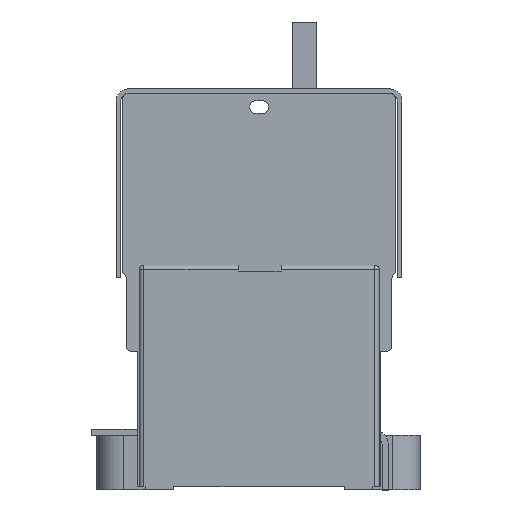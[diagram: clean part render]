
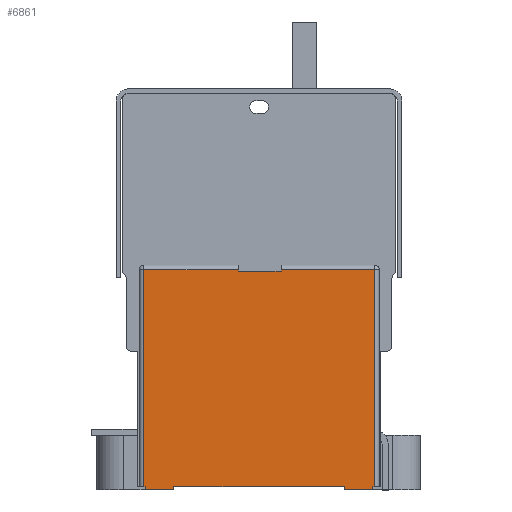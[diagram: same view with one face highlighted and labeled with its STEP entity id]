
A CAD part, left-side view. The second image highlights one B-rep face of the part: STEP entity #6861.
In plain terms, the highlighted planar face has unit normal (-1, 0, 0).
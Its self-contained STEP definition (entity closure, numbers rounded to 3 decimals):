
#714=PLANE('',#21398);
#1648=FACE_OUTER_BOUND('',#8660,.T.);
#3436=LINE('',#31904,#5532);
#3438=LINE('',#31910,#5534);
#3508=LINE('',#32222,#5604);
#3524=LINE('',#32302,#5620);
#3559=LINE('',#32401,#5655);
#3564=LINE('',#32413,#5660);
#3566=LINE('',#32416,#5662);
#3572=LINE('',#32429,#5668);
#3709=LINE('',#32713,#5805);
#3710=LINE('',#32717,#5806);
#3711=LINE('',#32718,#5807);
#3712=LINE('',#32720,#5808);
#3713=LINE('',#32722,#5809);
#3714=LINE('',#32723,#5810);
#3715=LINE('',#32724,#5811);
#3716=LINE('',#32726,#5812);
#5532=VECTOR('',#25848,1.);
#5534=VECTOR('',#25854,1.);
#5604=VECTOR('',#26142,1.);
#5620=VECTOR('',#26254,1.);
#5655=VECTOR('',#26359,1.);
#5660=VECTOR('',#26366,1.);
#5662=VECTOR('',#26370,1.);
#5668=VECTOR('',#26378,1.);
#5805=VECTOR('',#26631,1.);
#5806=VECTOR('',#26636,1.);
#5807=VECTOR('',#26637,1.);
#5808=VECTOR('',#26638,1.);
#5809=VECTOR('',#26639,1.);
#5810=VECTOR('',#26640,1.);
#5811=VECTOR('',#26641,1.);
#5812=VECTOR('',#26642,1.);
#6861=ADVANCED_FACE('',(#1648),#714,.F.);
#8660=EDGE_LOOP('',(#13771,#13772,#13773,#13774,#13775,#13776,#13777,#13778,
#13779,#13780,#13781,#13782,#13783,#13784,#13785,#13786));
#13771=ORIENTED_EDGE('',*,*,#19008,.F.);
#13772=ORIENTED_EDGE('',*,*,#18798,.T.);
#13773=ORIENTED_EDGE('',*,*,#18622,.T.);
#13774=ORIENTED_EDGE('',*,*,#19010,.F.);
#13775=ORIENTED_EDGE('',*,*,#18625,.T.);
#13776=ORIENTED_EDGE('',*,*,#18758,.T.);
#13777=ORIENTED_EDGE('',*,*,#19011,.T.);
#13778=ORIENTED_EDGE('',*,*,#19012,.T.);
#13779=ORIENTED_EDGE('',*,*,#19013,.F.);
#13780=ORIENTED_EDGE('',*,*,#18845,.F.);
#13781=ORIENTED_EDGE('',*,*,#18850,.T.);
#13782=ORIENTED_EDGE('',*,*,#19014,.T.);
#13783=ORIENTED_EDGE('',*,*,#18858,.F.);
#13784=ORIENTED_EDGE('',*,*,#18852,.F.);
#13785=ORIENTED_EDGE('',*,*,#19015,.T.);
#13786=ORIENTED_EDGE('',*,*,#19016,.T.);
#16017=VERTEX_POINT('',#31903);
#16018=VERTEX_POINT('',#31905);
#16020=VERTEX_POINT('',#31911);
#16021=VERTEX_POINT('',#31912);
#16109=VERTEX_POINT('',#32217);
#16110=VERTEX_POINT('',#32221);
#16156=VERTEX_POINT('',#32402);
#16157=VERTEX_POINT('',#32403);
#16161=VERTEX_POINT('',#32412);
#16162=VERTEX_POINT('',#32417);
#16163=VERTEX_POINT('',#32418);
#16166=VERTEX_POINT('',#32426);
#16257=VERTEX_POINT('',#32714);
#16258=VERTEX_POINT('',#32719);
#16259=VERTEX_POINT('',#32721);
#16260=VERTEX_POINT('',#32725);
#18622=EDGE_CURVE('',#16018,#16017,#3436,.T.);
#18625=EDGE_CURVE('',#16020,#16021,#3438,.T.);
#18758=EDGE_CURVE('',#16021,#16110,#3508,.T.);
#18798=EDGE_CURVE('',#16109,#16018,#3524,.T.);
#18845=EDGE_CURVE('',#16156,#16157,#3559,.T.);
#18850=EDGE_CURVE('',#16156,#16161,#3564,.T.);
#18852=EDGE_CURVE('',#16162,#16163,#3566,.T.);
#18858=EDGE_CURVE('',#16163,#16166,#3572,.T.);
#19008=EDGE_CURVE('',#16109,#16257,#3709,.T.);
#19010=EDGE_CURVE('',#16020,#16017,#3710,.T.);
#19011=EDGE_CURVE('',#16110,#16258,#3711,.T.);
#19012=EDGE_CURVE('',#16258,#16259,#3712,.T.);
#19013=EDGE_CURVE('',#16157,#16259,#3713,.T.);
#19014=EDGE_CURVE('',#16161,#16166,#3714,.T.);
#19015=EDGE_CURVE('',#16162,#16260,#3715,.T.);
#19016=EDGE_CURVE('',#16260,#16257,#3716,.T.);
#21398=AXIS2_PLACEMENT_3D('',#32727,#26643,#26644);
#25848=DIRECTION('',(0.,0.,-1.));
#25854=DIRECTION('',(0.,0.,1.));
#26142=DIRECTION('',(0.,1.,0.));
#26254=DIRECTION('',(0.,1.,0.));
#26359=DIRECTION('',(0.,1.,0.));
#26366=DIRECTION('',(0.,0.,1.));
#26370=DIRECTION('',(0.,1.,0.));
#26378=DIRECTION('',(0.,0.,1.));
#26631=DIRECTION('',(0.,0.,-1.));
#26636=DIRECTION('',(0.,-1.,0.));
#26637=DIRECTION('',(0.,0.,-1.));
#26638=DIRECTION('',(0.,-1.,0.));
#26639=DIRECTION('',(0.,0.,1.));
#26640=DIRECTION('',(0.,-1.,0.));
#26641=DIRECTION('',(0.,0.,1.));
#26642=DIRECTION('',(0.,-1.,0.));
#26643=DIRECTION('',(1.,0.,0.));
#26644=DIRECTION('',(0.,0.,-1.));
#31903=CARTESIAN_POINT('',(-69.,-31.985,67.));
#31904=CARTESIAN_POINT('',(-69.,-31.985,69.1));
#31905=CARTESIAN_POINT('',(-69.,-31.985,67.6));
#31910=CARTESIAN_POINT('',(-69.,-17.985,69.1));
#31911=CARTESIAN_POINT('',(-69.,-17.985,67.));
#31912=CARTESIAN_POINT('',(-69.,-17.985,67.6));
#32217=CARTESIAN_POINT('',(-69.,-62.735,67.6));
#32221=CARTESIAN_POINT('',(-69.,13.265,67.6));
#32222=CARTESIAN_POINT('',(-69.,13.265,67.6));
#32302=CARTESIAN_POINT('',(-69.,13.265,67.6));
#32401=CARTESIAN_POINT('',(-69.,3.265,-4.9));
#32402=CARTESIAN_POINT('',(-69.,3.265,-4.9));
#32403=CARTESIAN_POINT('',(-69.,12.765,-4.9));
#32412=CARTESIAN_POINT('',(-69.,3.265,-3.9));
#32413=CARTESIAN_POINT('',(-69.,3.265,-5.9));
#32416=CARTESIAN_POINT('',(-69.,-62.235,-4.9));
#32417=CARTESIAN_POINT('',(-69.,-62.235,-4.9));
#32418=CARTESIAN_POINT('',(-69.,-52.735,-4.9));
#32426=CARTESIAN_POINT('',(-69.,-52.735,-3.9));
#32429=CARTESIAN_POINT('',(-69.,-52.735,-5.9));
#32713=CARTESIAN_POINT('',(-69.,-62.735,69.1));
#32714=CARTESIAN_POINT('',(-69.,-62.735,-3.9));
#32717=CARTESIAN_POINT('',(-69.,12.765,67.));
#32718=CARTESIAN_POINT('',(-69.,13.265,69.1));
#32719=CARTESIAN_POINT('',(-69.,13.265,-3.9));
#32720=CARTESIAN_POINT('',(-69.,-62.235,-3.9));
#32721=CARTESIAN_POINT('',(-69.,12.765,-3.9));
#32722=CARTESIAN_POINT('',(-69.,12.765,-5.9));
#32723=CARTESIAN_POINT('',(-69.,-62.235,-3.9));
#32724=CARTESIAN_POINT('',(-69.,-62.235,-5.9));
#32725=CARTESIAN_POINT('',(-69.,-62.235,-3.9));
#32726=CARTESIAN_POINT('',(-69.,-62.235,-3.9));
#32727=CARTESIAN_POINT('',(-69.,-62.235,69.1));
